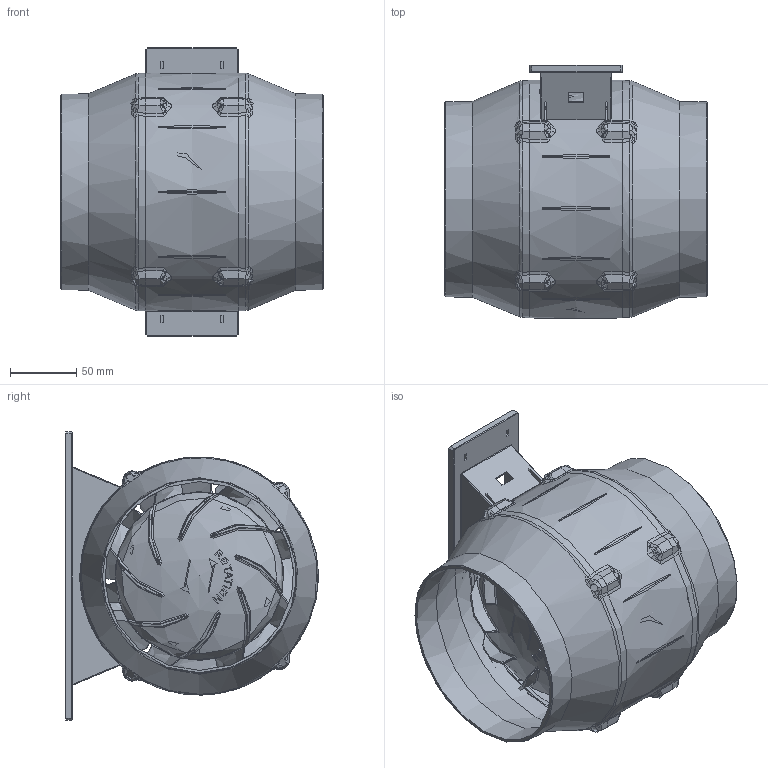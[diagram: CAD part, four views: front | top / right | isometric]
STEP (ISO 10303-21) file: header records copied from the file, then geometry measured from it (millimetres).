
FILE_DESCRIPTION ((), '1');
FILE_NAME ('C:\Users\Administrator\Desktop\塑料风机产品页\A150.stp', '2026-09-11T17:41:50', ('Unknown'), ('Unknown'), 'HarmonyWare STEP v2.1.4', 'HarmonyWare Translators', '');
FILE_SCHEMA (('CONFIG_CONTROL_DESIGN'));
Length unit declared in the file: millimetre
Products named in the file (10): 150H01防水款 ASM_objects
Assembly tree (9 placements, depth 2):
  (unnamed)
    150H01防水款 ASM_objects
    150H01防水款 ASM_objects
    150H01防水款 ASM_objects
    150H01防水款 ASM_objects
    150H01防水款 ASM_objects
    150H01防水款 ASM_objects
    150H01防水款 ASM_objects
    150H01防水款 ASM_objects
    150H01防水款 ASM_objects
Bounding box: 198 x 191.05 x 218 mm (x, y, z)
Volume: 650292.2 mm3; surface area: 554731.9 mm2
Topology: 9 solids, 9 shells, 2613 faces, 7384 edges, 4882 vertices
Faces by surface type: bspline 2613
Entity records: 177396 total; most frequent: CARTESIAN_POINT 133846, ORIENTED_EDGE 14710, EDGE_CURVE 7355, B_SPLINE_CURVE_WITH_KNOTS 5455, VERTEX_POINT 4882, EDGE_LOOP 2819, FACE_OUTER_BOUND 2613, ADVANCED_FACE 2613
